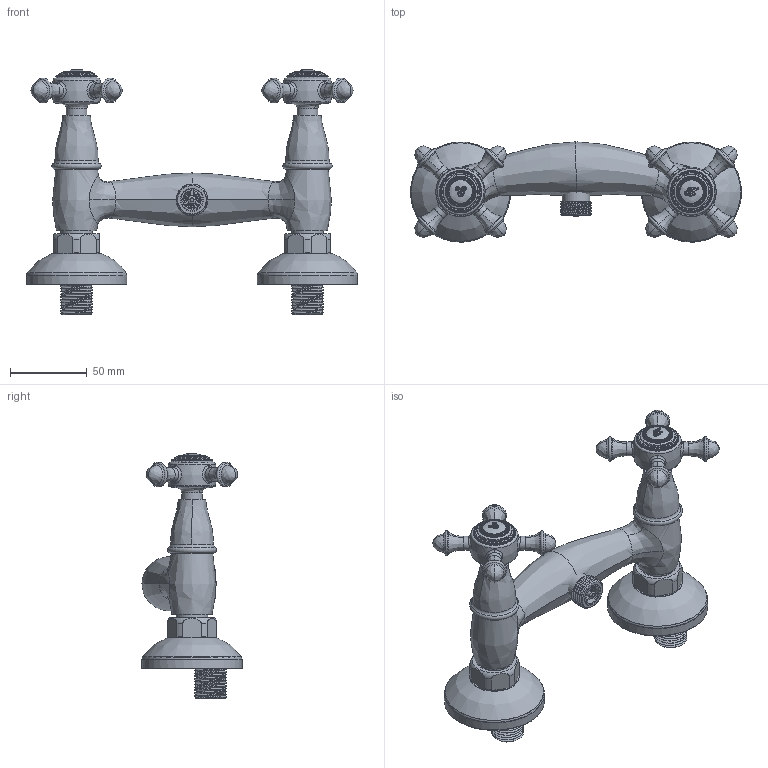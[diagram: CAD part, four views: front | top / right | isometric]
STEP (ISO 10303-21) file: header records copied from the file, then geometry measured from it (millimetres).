
FILE_DESCRIPTION(/* description */ (''),/* implementation_level */ '2;1');
FILE_NAME(/* name */ 'c:\worker\convert-fusion-r09\tmp\job-1\5\output\files\45846a09-b451-4896-a83e-3ebda74e3f30\e72d18b8-1543-4d45-af8d-fe625cfb9d68.stp',/* time_stamp */ '2019-12-09T17:13:04+00:00',/* author */ (''),/* organization */ (''),/* preprocessor_version */ 'ST-DEVELOPER v18',/* originating_system */ 'Autodesk Translation Framework v8.12.0.6',/* authorisation */ '');
FILE_SCHEMA (('AUTOMOTIVE_DESIGN { 1 0 10303 214 3 1 1 }'));
Products named in the file (1): !RE7240
Bounding box: 215 x 65 x 159.16 mm (x, y, z)
Volume: 238861.3 mm3; surface area: 104261.5 mm2
Topology: 22 solids, 26 shells, 1397 faces, 4620 edges, 3288 vertices
Faces by surface type: cylinder 606, plane 269, bspline 225, sphere 131, torus 123, cone 43
Full cylindrical faces by diameter (mm): 2.46 x2, 2.54 x1, 4.5 x2, 4.68 x2, 5.4 x1, 6.2 x1, 7.54 x1, 9 x8, 9.44 x1, 9.5 x2, 9.74 x1, 10 x2, 11.9 x1, 12.1 x1, 12.2 x1, 13.2 x1, 13.3 x1, 13.35 x2, 13.5 x2, 14 x4, 14.596 x2, 14.6 x1, 14.8 x1, 15 x3, 16 x4, 16.8 x2, 18 x5, 19 x2, 20.5 x6, 21 x20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
Entity records: 109391 total; most frequent: CARTESIAN_POINT 71397, ORIENTED_EDGE 8430, DIRECTION 7175, EDGE_CURVE 4603, VERTEX_POINT 3290, AXIS2_PLACEMENT_3D 3065, CIRCLE 1814, EDGE_LOOP 1573
